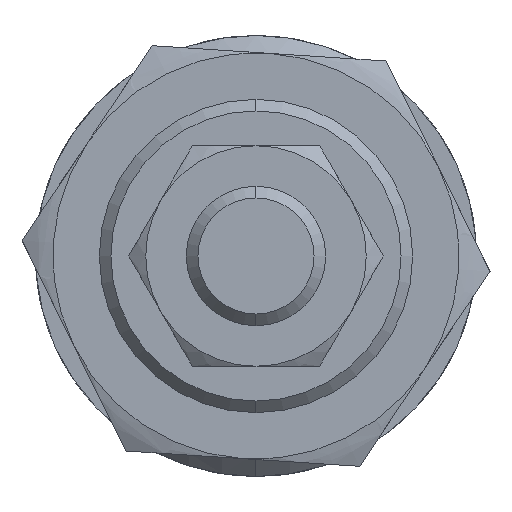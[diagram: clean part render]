
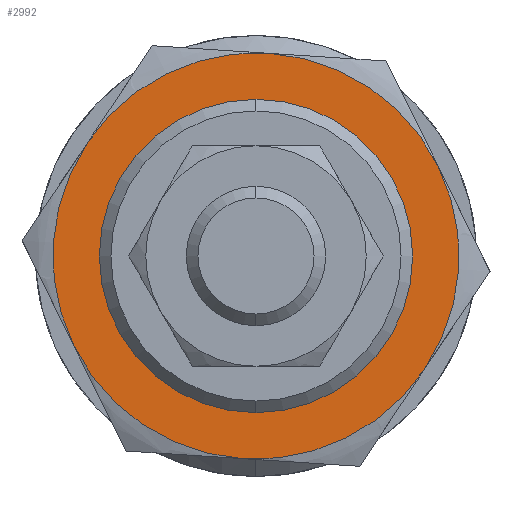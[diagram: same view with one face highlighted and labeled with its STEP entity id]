
A CAD part, left-side view. The second image highlights one B-rep face of the part: STEP entity #2992.
In plain terms, the highlighted planar face has unit normal (-1, 0, 0) as drawn and (0, 0, -1) by its records, which use the part's own axes.
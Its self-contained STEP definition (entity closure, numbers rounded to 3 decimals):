
#60 = VERTEX_POINT ( 'NONE', #484 ) ;
#118 = AXIS2_PLACEMENT_3D ( 'NONE', #940, #705, #2478 ) ;
#131 = EDGE_CURVE ( 'NONE', #243, #1647, #1595, .T. ) ;
#153 = CARTESIAN_POINT ( 'NONE',  ( 0., 0., -5. ) ) ;
#228 = EDGE_CURVE ( 'NONE', #2891, #2023, #1474, .T. ) ;
#243 = VERTEX_POINT ( 'NONE', #611 ) ;
#331 = VERTEX_POINT ( 'NONE', #3252 ) ;
#336 = FACE_BOUND ( 'NONE', #2804, .T. ) ;
#445 = ORIENTED_EDGE ( 'NONE', *, *, #2040, .F. ) ;
#484 = CARTESIAN_POINT ( 'NONE',  ( -12.5, 0., -5. ) ) ;
#534 = AXIS2_PLACEMENT_3D ( 'NONE', #1156, #1682, #661 ) ;
#591 = DIRECTION ( 'NONE',  ( 0., 0., 1. ) ) ;
#601 = AXIS2_PLACEMENT_3D ( 'NONE', #2906, #1331, #1052 ) ;
#611 = CARTESIAN_POINT ( 'NONE',  ( 8.75, -15.155, -5. ) ) ;
#623 = CARTESIAN_POINT ( 'NONE',  ( 0., 0., -5. ) ) ;
#661 = DIRECTION ( 'NONE',  ( 1., 0., 0. ) ) ;
#674 = CIRCLE ( 'NONE', #2626, 12.5 ) ;
#693 = ORIENTED_EDGE ( 'NONE', *, *, #2208, .F. ) ;
#696 = DIRECTION ( 'NONE',  ( 0., 0., 1. ) ) ;
#705 = DIRECTION ( 'NONE',  ( 0., 0., 1. ) ) ;
#707 = CIRCLE ( 'NONE', #534, 12.5 ) ;
#760 = CARTESIAN_POINT ( 'NONE',  ( -17.5, 0., -5. ) ) ;
#784 = EDGE_CURVE ( 'NONE', #331, #60, #674, .T. ) ;
#793 = ORIENTED_EDGE ( 'NONE', *, *, #2853, .T. ) ;
#795 = DIRECTION ( 'NONE',  ( 0., 0., 1. ) ) ;
#883 = AXIS2_PLACEMENT_3D ( 'NONE', #623, #1668, #2938 ) ;
#897 = DIRECTION ( 'NONE',  ( 0., 0., 1. ) ) ;
#901 = CIRCLE ( 'NONE', #118, 17.5 ) ;
#940 = CARTESIAN_POINT ( 'NONE',  ( 0., 0., -5. ) ) ;
#996 = ORIENTED_EDGE ( 'NONE', *, *, #3191, .F. ) ;
#1043 = ORIENTED_EDGE ( 'NONE', *, *, #228, .F. ) ;
#1052 = DIRECTION ( 'NONE',  ( 1., 0., 0. ) ) ;
#1085 = DIRECTION ( 'NONE',  ( 1., 0., 0. ) ) ;
#1124 = VERTEX_POINT ( 'NONE', #2995 ) ;
#1156 = CARTESIAN_POINT ( 'NONE',  ( 0., 0., -5. ) ) ;
#1211 = DIRECTION ( 'NONE',  ( 1., 0., 0. ) ) ;
#1216 = CIRCLE ( 'NONE', #1702, 17.5 ) ;
#1223 = DIRECTION ( 'NONE',  ( 0., 0., 1. ) ) ;
#1331 = DIRECTION ( 'NONE',  ( 0., 0., 1. ) ) ;
#1474 = CIRCLE ( 'NONE', #883, 17.5 ) ;
#1475 = PLANE ( 'NONE',  #3239 ) ;
#1544 = FACE_OUTER_BOUND ( 'NONE', #1844, .T. ) ;
#1562 = CARTESIAN_POINT ( 'NONE',  ( 0., 0., -5. ) ) ;
#1595 = CIRCLE ( 'NONE', #2979, 17.5 ) ;
#1614 = CARTESIAN_POINT ( 'NONE',  ( 17.5, 0., -5. ) ) ;
#1647 = VERTEX_POINT ( 'NONE', #1614 ) ;
#1668 = DIRECTION ( 'NONE',  ( 0., 0., 1. ) ) ;
#1677 = DIRECTION ( 'NONE',  ( 1., 0., 0. ) ) ;
#1682 = DIRECTION ( 'NONE',  ( 0., 0., 1. ) ) ;
#1702 = AXIS2_PLACEMENT_3D ( 'NONE', #1910, #897, #1677 ) ;
#1712 = DIRECTION ( 'NONE',  ( 1., 0., 0. ) ) ;
#1824 = CIRCLE ( 'NONE', #2344, 17.5 ) ;
#1844 = EDGE_LOOP ( 'NONE', ( #693, #2256, #445, #2221, #996, #1043 ) ) ;
#1910 = CARTESIAN_POINT ( 'NONE',  ( 0., 0., -5. ) ) ;
#2023 = VERTEX_POINT ( 'NONE', #2639 ) ;
#2040 = EDGE_CURVE ( 'NONE', #1124, #243, #2753, .T. ) ;
#2208 = EDGE_CURVE ( 'NONE', #1647, #2891, #901, .T. ) ;
#2221 = ORIENTED_EDGE ( 'NONE', *, *, #2485, .F. ) ;
#2256 = ORIENTED_EDGE ( 'NONE', *, *, #131, .F. ) ;
#2344 = AXIS2_PLACEMENT_3D ( 'NONE', #153, #696, #1712 ) ;
#2378 = CARTESIAN_POINT ( 'NONE',  ( 0., 0., -5. ) ) ;
#2411 = VERTEX_POINT ( 'NONE', #760 ) ;
#2458 = CARTESIAN_POINT ( 'NONE',  ( 8.75, 15.155, -5. ) ) ;
#2478 = DIRECTION ( 'NONE',  ( 1., 0., 0. ) ) ;
#2485 = EDGE_CURVE ( 'NONE', #2411, #1124, #1216, .T. ) ;
#2626 = AXIS2_PLACEMENT_3D ( 'NONE', #2378, #591, #2919 ) ;
#2639 = CARTESIAN_POINT ( 'NONE',  ( -8.75, 15.155, -5. ) ) ;
#2696 = ORIENTED_EDGE ( 'NONE', *, *, #784, .T. ) ;
#2753 = CIRCLE ( 'NONE', #601, 17.5 ) ;
#2804 = EDGE_LOOP ( 'NONE', ( #2696, #793 ) ) ;
#2853 = EDGE_CURVE ( 'NONE', #60, #331, #707, .T. ) ;
#2891 = VERTEX_POINT ( 'NONE', #2458 ) ;
#2906 = CARTESIAN_POINT ( 'NONE',  ( 0., 0., -5. ) ) ;
#2919 = DIRECTION ( 'NONE',  ( 1., 0., 0. ) ) ;
#2938 = DIRECTION ( 'NONE',  ( 1., 0., 0. ) ) ;
#2979 = AXIS2_PLACEMENT_3D ( 'NONE', #1562, #795, #1085 ) ;
#2992 = ADVANCED_FACE ( 'NONE', ( #336, #1544 ), #1475, .F. ) ;
#2995 = CARTESIAN_POINT ( 'NONE',  ( -8.75, -15.155, -5. ) ) ;
#3028 = CARTESIAN_POINT ( 'NONE',  ( 0., 0., -5. ) ) ;
#3191 = EDGE_CURVE ( 'NONE', #2023, #2411, #1824, .T. ) ;
#3239 = AXIS2_PLACEMENT_3D ( 'NONE', #3028, #1223, #1211 ) ;
#3252 = CARTESIAN_POINT ( 'NONE',  ( 12.5, 0., -5. ) ) ;
